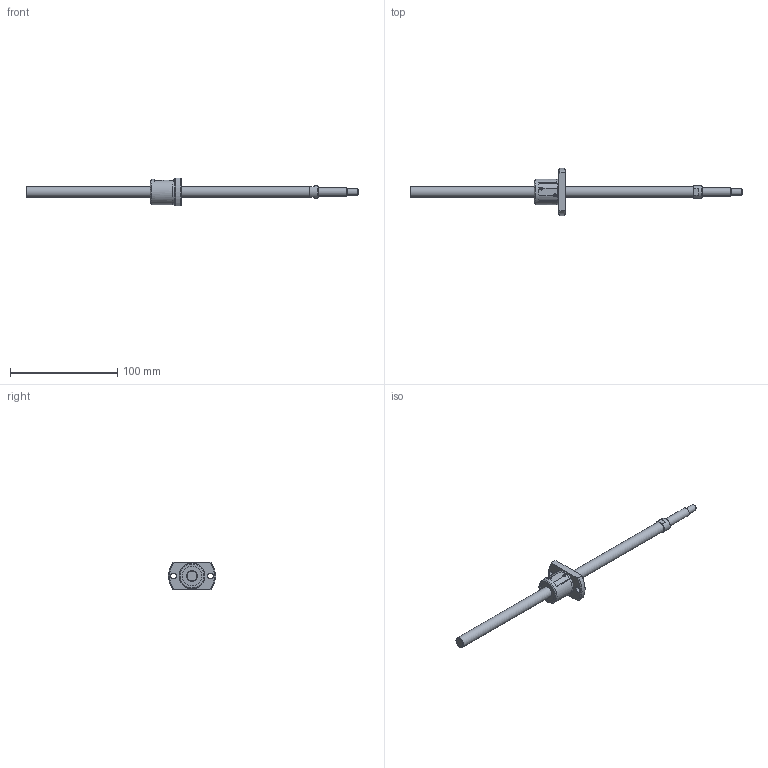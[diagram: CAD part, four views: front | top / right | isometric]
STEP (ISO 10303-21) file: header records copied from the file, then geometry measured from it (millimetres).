
FILE_DESCRIPTION( ( 'STEP AP214' ), '1' );
FILE_NAME( 'p:/temp/worker_8/2188_2204/app_86_12015063014144264219052260eae72_00_00_00_000/STEP/SG1004-260R310C3A1X_116__2_14.stp', ' ', ( ' ' ), ( ' ' ), 'PSStep 15.0.47', 'PARTsolutions', ' ' );
FILE_SCHEMA( ( 'AUTOMOTIVE_DESIGN { 1 0 10303 214 1 1 1 1 }' ) );
Length unit declared in the file: millimetre
Products named in the file (3): SG1004-260R310C3A1X(116); _SG1004-260R310C3A_shaft; _SG1004_nut
Assembly tree (2 placements, depth 2):
  SG1004-260R310C3A1X(116)
    _SG1004-260R310C3A_shaft
    _SG1004_nut
Bounding box: 310 x 44 x 26 mm (x, y, z)
Volume: 36805 mm3; surface area: 15160.8 mm2
Topology: 2 solids, 2 shells, 72 faces, 177 edges, 116 vertices
Faces by surface type: plane 35, cylinder 23, cone 13, torus 1
Full cylindrical faces by diameter (mm): 5.5 x2, 6 x1, 8 x1, 10 x2, 11.5 x1, 18 x2, 23.5 x1, 24 x1
Entity records: 2634 total; most frequent: CARTESIAN_POINT 409, DIRECTION 346, ORIENTED_EDGE 292, EDGE_CURVE 146, AXIS2_PLACEMENT_3D 143, EDGE_LOOP 106, VERTEX_POINT 106, FACE_OUTER_BOUND 84
